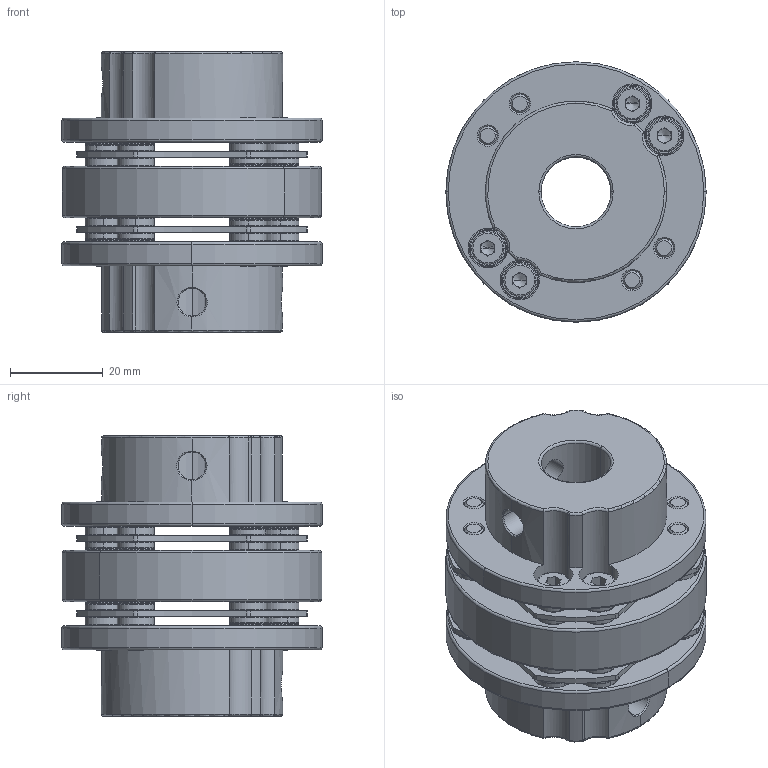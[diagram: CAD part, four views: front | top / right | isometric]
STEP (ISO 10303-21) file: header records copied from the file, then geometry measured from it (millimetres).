
FILE_DESCRIPTION (( 'STEP AP214' ), '1' );
FILE_NAME ('SHDW-56.STEP', '2009-05-21T06:18:23', ( '歜煽繹' ), ( '' ), 'SwSTEP 2.0', 'SolidWorks 2007', '' );
FILE_SCHEMA (( 'AUTOMOTIVE_DESIGN' ));
Length unit declared in the file: millimetre
Products named in the file (8): collar-1_ル遽; sus-plate1_ル遽; sdw-set_head_ル遽; M4x10; 醞除っ_ル遽; SHDW-56; collar-2_ル遽; set-asm_ル遽
Assembly tree (29 placements, depth 3):
  SHDW-56
    set-asm_ル遽  x2
      sus-plate1_ル遽
      collar-2_ル遽
      sdw-set_head_ル遽
      M4x10
      collar-1_ル遽
    醞除っ_ル遽
Bounding box: 56 x 56 x 60.4 mm (x, y, z)
Volume: 74421.7 mm3; surface area: 40833.2 mm2
Topology: 53 solids, 53 shells, 1284 faces, 2794 edges, 1622 vertices
Faces by surface type: torus 424, cylinder 372, plane 332, cone 148, bspline 8
Entity records: 7913 total; most frequent: CARTESIAN_POINT 1666, DIRECTION 1428, ORIENTED_EDGE 1138, AXIS2_PLACEMENT_3D 619, EDGE_CURVE 569, CIRCLE 351, VERTEX_POINT 340, EDGE_LOOP 299
